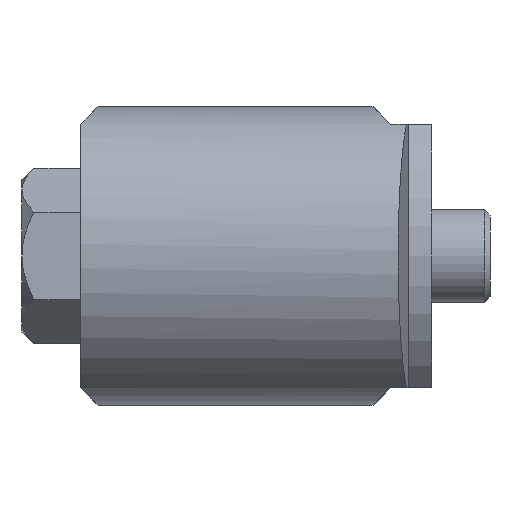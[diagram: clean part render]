
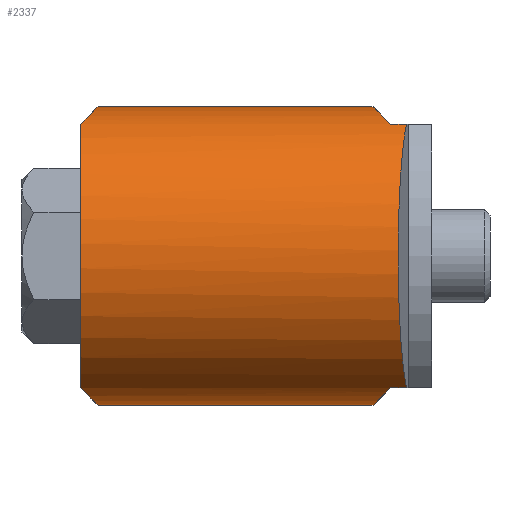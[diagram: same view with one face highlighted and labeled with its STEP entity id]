
A CAD part, left-side view. The second image highlights one B-rep face of the part: STEP entity #2337.
In plain terms, the highlighted cylindrical face has radius 12.75 mm (diameter 25.5 mm), a partial arc.
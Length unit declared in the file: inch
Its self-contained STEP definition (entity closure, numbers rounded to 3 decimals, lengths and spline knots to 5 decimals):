
#110=ELLIPSE('',#2510,0.70989,0.50197);
#111=ELLIPSE('',#2513,0.70989,0.50197);
#112=ELLIPSE('',#2516,0.70989,0.50197);
#113=ELLIPSE('',#2518,0.70989,0.50197);
#114=ELLIPSE('',#2522,0.50473,0.50197);
#158=LINE('',#3510,#280);
#171=LINE('',#3540,#293);
#180=LINE('',#3565,#302);
#181=LINE('',#3567,#303);
#280=VECTOR('',#2836,0.3937);
#293=VECTOR('',#2855,0.3937);
#302=VECTOR('',#2882,0.3937);
#303=VECTOR('',#2885,0.3937);
#399=CYLINDRICAL_SURFACE('',#2523,0.50197);
#443=FACE_OUTER_BOUND('',#580,.T.);
#580=EDGE_LOOP('',(#1527,#1528,#1529,#1530,#1531,#1532,#1533,#1534,#1535,
#1536));
#741=CIRCLE('',#2524,0.50197);
#889=VERTEX_POINT('',#3500);
#890=VERTEX_POINT('',#3501);
#893=VERTEX_POINT('',#3509);
#898=VERTEX_POINT('',#3521);
#899=VERTEX_POINT('',#3522);
#906=VERTEX_POINT('',#3537);
#907=VERTEX_POINT('',#3539);
#909=VERTEX_POINT('',#3545);
#911=VERTEX_POINT('',#3551);
#912=VERTEX_POINT('',#3552);
#1131=EDGE_CURVE('',#889,#890,#110,.T.);
#1135=EDGE_CURVE('',#890,#893,#158,.T.);
#1141=EDGE_CURVE('',#898,#899,#111,.T.);
#1149=EDGE_CURVE('',#907,#906,#171,.T.);
#1152=EDGE_CURVE('',#906,#909,#112,.T.);
#1155=EDGE_CURVE('',#911,#912,#113,.T.);
#1161=EDGE_CURVE('',#893,#907,#114,.T.);
#1162=EDGE_CURVE('',#909,#911,#180,.T.);
#1163=EDGE_CURVE('',#898,#912,#741,.T.);
#1164=EDGE_CURVE('',#889,#899,#181,.T.);
#1527=ORIENTED_EDGE('',*,*,#1131,.T.);
#1528=ORIENTED_EDGE('',*,*,#1135,.T.);
#1529=ORIENTED_EDGE('',*,*,#1161,.T.);
#1530=ORIENTED_EDGE('',*,*,#1149,.T.);
#1531=ORIENTED_EDGE('',*,*,#1152,.T.);
#1532=ORIENTED_EDGE('',*,*,#1162,.T.);
#1533=ORIENTED_EDGE('',*,*,#1155,.T.);
#1534=ORIENTED_EDGE('',*,*,#1163,.F.);
#1535=ORIENTED_EDGE('',*,*,#1141,.T.);
#1536=ORIENTED_EDGE('',*,*,#1164,.F.);
#2337=ADVANCED_FACE('',(#443),#399,.T.);
#2510=AXIS2_PLACEMENT_3D('',#3502,#2829,#2830);
#2513=AXIS2_PLACEMENT_3D('',#3523,#2844,#2845);
#2516=AXIS2_PLACEMENT_3D('',#3546,#2860,#2861);
#2518=AXIS2_PLACEMENT_3D('',#3553,#2866,#2867);
#2522=AXIS2_PLACEMENT_3D('',#3563,#2878,#2879);
#2523=AXIS2_PLACEMENT_3D('',#3564,#2880,#2881);
#2524=AXIS2_PLACEMENT_3D('',#3566,#2883,#2884);
#2829=DIRECTION('center_axis',(0.,0.707,0.707));
#2830=DIRECTION('ref_axis',(0.,-0.707,0.707));
#2836=DIRECTION('',(0.,-1.,0.));
#2844=DIRECTION('center_axis',(0.,-0.707,0.707));
#2845=DIRECTION('ref_axis',(0.,0.707,0.707));
#2855=DIRECTION('',(0.,1.,0.));
#2860=DIRECTION('center_axis',(0.,0.707,-0.707));
#2861=DIRECTION('ref_axis',(0.,0.707,0.707));
#2866=DIRECTION('center_axis',(0.,-0.707,-0.707));
#2867=DIRECTION('ref_axis',(0.,-0.707,0.707));
#2878=DIRECTION('center_axis',(0.105,0.995,0.));
#2879=DIRECTION('ref_axis',(-0.995,0.105,0.));
#2880=DIRECTION('center_axis',(0.,-1.,0.));
#2881=DIRECTION('ref_axis',(0.,0.,1.));
#2882=DIRECTION('',(0.,1.,0.));
#2883=DIRECTION('center_axis',(0.,1.,0.));
#2884=DIRECTION('ref_axis',(0.,0.,1.));
#2885=DIRECTION('',(0.,1.,0.));
#3500=CARTESIAN_POINT('',(-1.86193,0.66872,-0.02886));
#3501=CARTESIAN_POINT('',(-2.09815,0.60966,0.03019));
#3502=CARTESIAN_POINT('Origin',(-1.86193,0.16675,0.4731));
#3509=CARTESIAN_POINT('',(-2.09815,0.5562,0.03019));
#3510=CARTESIAN_POINT('',(-2.09815,1.65297,0.03019));
#3521=CARTESIAN_POINT('',(-2.09815,1.65297,0.03019));
#3522=CARTESIAN_POINT('',(-1.86193,1.59392,-0.02886));
#3523=CARTESIAN_POINT('Origin',(-1.86193,2.09589,0.4731));
#3537=CARTESIAN_POINT('',(-2.09815,0.60966,0.91602));
#3539=CARTESIAN_POINT('',(-2.09815,0.5562,0.91602));
#3540=CARTESIAN_POINT('',(-2.09815,1.65297,0.91602));
#3545=CARTESIAN_POINT('',(-1.86193,0.66872,0.97507));
#3546=CARTESIAN_POINT('Origin',(-1.86193,0.16675,0.4731));
#3551=CARTESIAN_POINT('',(-1.86193,1.59392,0.97507));
#3552=CARTESIAN_POINT('',(-2.09815,1.65297,0.91602));
#3553=CARTESIAN_POINT('Origin',(-1.86193,2.09589,0.4731));
#3563=CARTESIAN_POINT('Origin',(-1.86193,0.53137,0.4731));
#3564=CARTESIAN_POINT('Origin',(-1.86193,1.65297,0.4731));
#3565=CARTESIAN_POINT('',(-1.86193,1.65297,0.97507));
#3566=CARTESIAN_POINT('Origin',(-1.86193,1.65297,0.4731));
#3567=CARTESIAN_POINT('',(-1.86193,1.65297,-0.02886));
